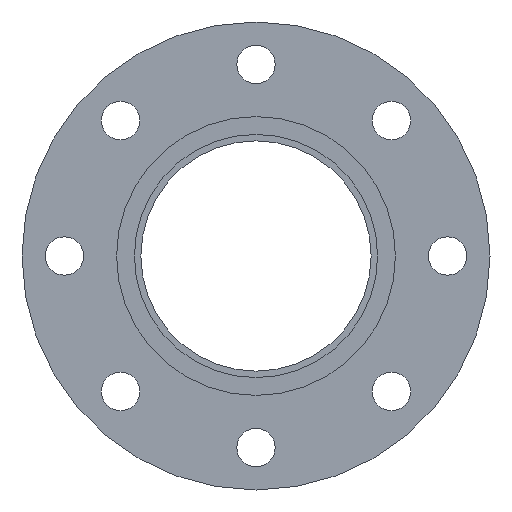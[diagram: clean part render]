
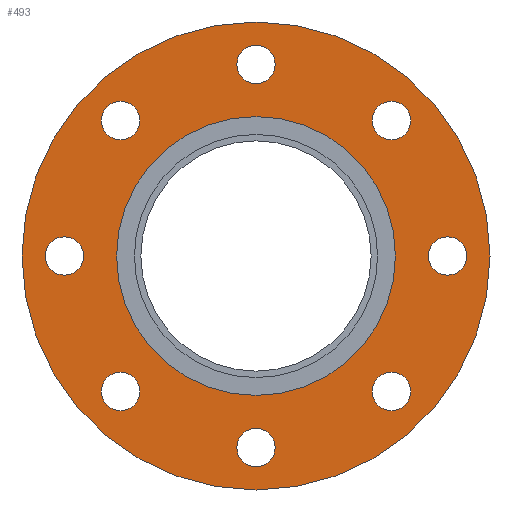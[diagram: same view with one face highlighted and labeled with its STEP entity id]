
A CAD part, left-side view. The second image highlights one B-rep face of the part: STEP entity #493.
In plain terms, the highlighted planar face has unit normal (-1, 0, 0).
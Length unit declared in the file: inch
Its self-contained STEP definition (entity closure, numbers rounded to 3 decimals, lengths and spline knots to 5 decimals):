
#49=FACE_BOUND('',#119,.T.);
#50=FACE_BOUND('',#120,.T.);
#51=FACE_BOUND('',#121,.T.);
#52=FACE_BOUND('',#122,.T.);
#53=FACE_BOUND('',#123,.T.);
#54=FACE_BOUND('',#124,.T.);
#55=FACE_BOUND('',#125,.T.);
#56=FACE_BOUND('',#126,.T.);
#57=FACE_BOUND('',#127,.T.);
#72=PLANE('',#571);
#92=FACE_OUTER_BOUND('',#118,.T.);
#118=EDGE_LOOP('',(#397,#398));
#119=EDGE_LOOP('',(#399));
#120=EDGE_LOOP('',(#400));
#121=EDGE_LOOP('',(#401));
#122=EDGE_LOOP('',(#402));
#123=EDGE_LOOP('',(#403));
#124=EDGE_LOOP('',(#404));
#125=EDGE_LOOP('',(#405));
#126=EDGE_LOOP('',(#406));
#127=EDGE_LOOP('',(#407,#408));
#173=CIRCLE('',#520,0.355);
#175=CIRCLE('',#523,0.355);
#177=CIRCLE('',#526,0.355);
#179=CIRCLE('',#529,0.355);
#181=CIRCLE('',#532,0.355);
#183=CIRCLE('',#535,0.355);
#185=CIRCLE('',#538,0.355);
#187=CIRCLE('',#541,0.355);
#206=CIRCLE('',#569,2.58);
#207=CIRCLE('',#570,2.58);
#208=CIRCLE('',#572,4.33);
#209=CIRCLE('',#573,4.33);
#217=VERTEX_POINT('',#776);
#219=VERTEX_POINT('',#782);
#221=VERTEX_POINT('',#788);
#223=VERTEX_POINT('',#794);
#225=VERTEX_POINT('',#800);
#227=VERTEX_POINT('',#806);
#229=VERTEX_POINT('',#812);
#231=VERTEX_POINT('',#818);
#250=VERTEX_POINT('',#870);
#251=VERTEX_POINT('',#871);
#252=VERTEX_POINT('',#876);
#253=VERTEX_POINT('',#877);
#262=EDGE_CURVE('',#217,#217,#173,.T.);
#265=EDGE_CURVE('',#219,#219,#175,.T.);
#268=EDGE_CURVE('',#221,#221,#177,.T.);
#271=EDGE_CURVE('',#223,#223,#179,.T.);
#274=EDGE_CURVE('',#225,#225,#181,.T.);
#277=EDGE_CURVE('',#227,#227,#183,.T.);
#280=EDGE_CURVE('',#229,#229,#185,.T.);
#283=EDGE_CURVE('',#231,#231,#187,.T.);
#306=EDGE_CURVE('',#250,#251,#206,.T.);
#307=EDGE_CURVE('',#251,#250,#207,.T.);
#309=EDGE_CURVE('',#252,#253,#208,.T.);
#310=EDGE_CURVE('',#253,#252,#209,.T.);
#397=ORIENTED_EDGE('',*,*,#309,.F.);
#398=ORIENTED_EDGE('',*,*,#310,.F.);
#399=ORIENTED_EDGE('',*,*,#262,.T.);
#400=ORIENTED_EDGE('',*,*,#265,.T.);
#401=ORIENTED_EDGE('',*,*,#268,.T.);
#402=ORIENTED_EDGE('',*,*,#271,.T.);
#403=ORIENTED_EDGE('',*,*,#274,.T.);
#404=ORIENTED_EDGE('',*,*,#277,.T.);
#405=ORIENTED_EDGE('',*,*,#280,.T.);
#406=ORIENTED_EDGE('',*,*,#283,.T.);
#407=ORIENTED_EDGE('',*,*,#306,.T.);
#408=ORIENTED_EDGE('',*,*,#307,.T.);
#493=ADVANCED_FACE('',(#92,#49,#50,#51,#52,#53,#54,#55,#56,#57),#72,.T.);
#520=AXIS2_PLACEMENT_3D('',#778,#604,#605);
#523=AXIS2_PLACEMENT_3D('',#784,#611,#612);
#526=AXIS2_PLACEMENT_3D('',#790,#618,#619);
#529=AXIS2_PLACEMENT_3D('',#796,#625,#626);
#532=AXIS2_PLACEMENT_3D('',#802,#632,#633);
#535=AXIS2_PLACEMENT_3D('',#808,#639,#640);
#538=AXIS2_PLACEMENT_3D('',#814,#646,#647);
#541=AXIS2_PLACEMENT_3D('',#820,#653,#654);
#569=AXIS2_PLACEMENT_3D('',#872,#713,#714);
#570=AXIS2_PLACEMENT_3D('',#873,#715,#716);
#571=AXIS2_PLACEMENT_3D('',#875,#718,#719);
#572=AXIS2_PLACEMENT_3D('',#878,#720,#721);
#573=AXIS2_PLACEMENT_3D('',#879,#722,#723);
#604=DIRECTION('center_axis',(1.,0.,0.));
#605=DIRECTION('ref_axis',(0.,0.707,0.707));
#611=DIRECTION('center_axis',(1.,0.,0.));
#612=DIRECTION('ref_axis',(0.,1.,0.));
#618=DIRECTION('center_axis',(1.,0.,0.));
#619=DIRECTION('ref_axis',(0.,0.707,-0.707));
#625=DIRECTION('center_axis',(1.,0.,0.));
#626=DIRECTION('ref_axis',(0.,0.,-1.));
#632=DIRECTION('center_axis',(1.,0.,0.));
#633=DIRECTION('ref_axis',(0.,-0.707,-0.707));
#639=DIRECTION('center_axis',(1.,0.,0.));
#640=DIRECTION('ref_axis',(0.,-1.,0.));
#646=DIRECTION('center_axis',(1.,0.,0.));
#647=DIRECTION('ref_axis',(0.,-0.707,0.707));
#653=DIRECTION('center_axis',(1.,0.,0.));
#654=DIRECTION('ref_axis',(0.,0.,1.));
#713=DIRECTION('center_axis',(1.,0.,0.));
#714=DIRECTION('ref_axis',(0.,0.,-1.));
#715=DIRECTION('center_axis',(1.,0.,0.));
#716=DIRECTION('ref_axis',(0.,0.,-1.));
#718=DIRECTION('center_axis',(-1.,0.,0.));
#719=DIRECTION('ref_axis',(0.,0.,1.));
#720=DIRECTION('center_axis',(1.,0.,0.));
#721=DIRECTION('ref_axis',(0.,0.,-1.));
#722=DIRECTION('center_axis',(1.,0.,0.));
#723=DIRECTION('ref_axis',(0.,0.,-1.));
#776=CARTESIAN_POINT('',(-0.79,2.25567,-2.75772));
#778=CARTESIAN_POINT('Origin',(-0.79,2.50669,-2.50669));
#782=CARTESIAN_POINT('',(-0.79,-0.355,-3.545));
#784=CARTESIAN_POINT('Origin',(-0.79,0.,
-3.545));
#788=CARTESIAN_POINT('',(-0.79,-2.75772,-2.25567));
#790=CARTESIAN_POINT('Origin',(-0.79,-2.50669,-2.50669));
#794=CARTESIAN_POINT('',(-0.79,-3.545,0.355));
#796=CARTESIAN_POINT('Origin',(-0.79,-3.545,0.));
#800=CARTESIAN_POINT('',(-0.79,-2.25567,2.75772));
#802=CARTESIAN_POINT('Origin',(-0.79,-2.50669,2.50669));
#806=CARTESIAN_POINT('',(-0.79,0.355,3.545));
#808=CARTESIAN_POINT('Origin',(-0.79,0.,
3.545));
#812=CARTESIAN_POINT('',(-0.79,2.75772,2.25567));
#814=CARTESIAN_POINT('Origin',(-0.79,2.50669,2.50669));
#818=CARTESIAN_POINT('',(-0.79,3.545,-0.355));
#820=CARTESIAN_POINT('Origin',(-0.79,3.545,0.));
#870=CARTESIAN_POINT('',(-0.79,2.58,0.));
#871=CARTESIAN_POINT('',(-0.79,-2.58,0.));
#872=CARTESIAN_POINT('Origin',(-0.79,0.,0.));
#873=CARTESIAN_POINT('Origin',(-0.79,0.,0.));
#875=CARTESIAN_POINT('Origin',(-0.79,4.33,0.));
#876=CARTESIAN_POINT('',(-0.79,4.33,0.));
#877=CARTESIAN_POINT('',(-0.79,-4.33,0.));
#878=CARTESIAN_POINT('Origin',(-0.79,0.,
0.));
#879=CARTESIAN_POINT('Origin',(-0.79,0.,
0.));
